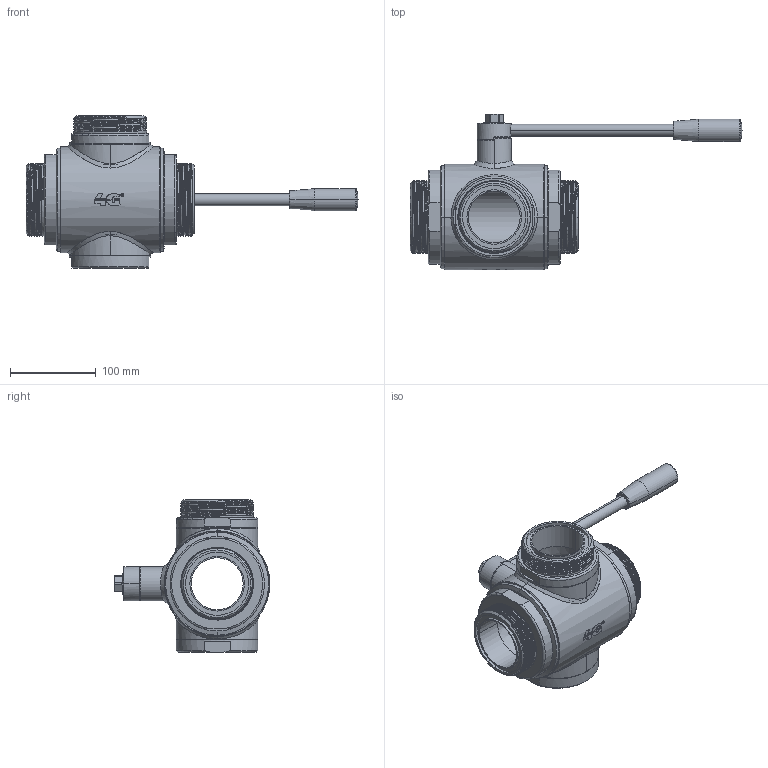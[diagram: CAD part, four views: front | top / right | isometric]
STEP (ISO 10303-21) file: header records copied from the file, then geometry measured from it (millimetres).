
FILE_DESCRIPTION((''),'2;1');
FILE_NAME('30014464410','2015-03-04T',('uff_tec'),('CDM Tecnoconsulting'),'PRO/ENGINEER BY PARAMETRIC TECHNOLOGY CORPORATION, 2010280','PRO/ENGINEER BY PARAMETRIC TECHNOLOGY CORPORATION, 2010280','');
FILE_SCHEMA(('CONFIG_CONTROL_DESIGN','SHAPE_APPEARANCE_LAYERS_GROUPS'));
Length unit declared in the file: millimetre
Products named in the file (1): 30014464410
Bounding box: 386.5 x 181.5 x 178 mm (x, y, z)
Surface area: 206843.9 mm2 (no closed solid volume)
Topology: 0 solids, 60 shells, 317 faces, 1592 edges, 1326 vertices
Faces by surface type: cylinder 107, plane 89, cone 57, bspline 46, torus 16, sphere 2
Entity records: 32117 total; most frequent: CARTESIAN_POINT 20100, ORIENTED_EDGE 2181, DIRECTION 1939, EDGE_CURVE 1588, VERTEX_POINT 1326, VECTOR 757, LINE 757, AXIS2_PLACEMENT_3D 591
